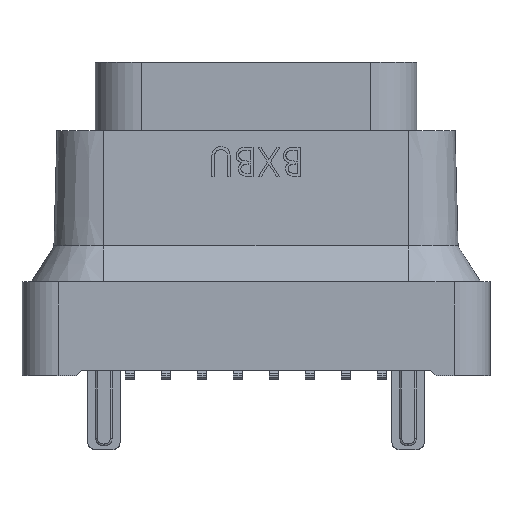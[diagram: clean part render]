
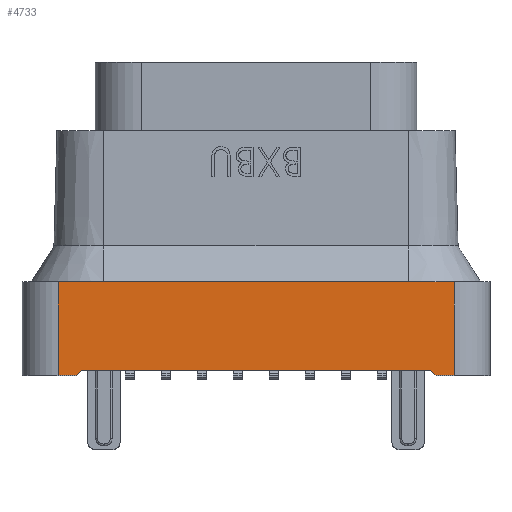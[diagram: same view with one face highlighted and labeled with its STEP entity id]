
A CAD part, top view. The second image highlights one B-rep face of the part: STEP entity #4733.
In plain terms, the highlighted planar face has unit normal (0, 0, 1).
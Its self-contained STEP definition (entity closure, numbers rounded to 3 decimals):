
#59 = EDGE_CURVE ( 'NONE', #18126, #3536, #2848, .T. ) ;
#334 = CARTESIAN_POINT ( 'NONE',  ( 74.5, 2.6, 33.6 ) ) ;
#498 = CARTESIAN_POINT ( 'NONE',  ( 85., 0., 33.6 ) ) ;
#715 = DIRECTION ( 'NONE',  ( 0.707, -0.707, 0. ) ) ;
#1563 = AXIS2_PLACEMENT_3D ( 'NONE', #10076, #9986, #13216 ) ;
#1913 = DIRECTION ( 'NONE',  ( 0., 1., 0. ) ) ;
#2401 = CARTESIAN_POINT ( 'NONE',  ( 75., 0., 33.6 ) ) ;
#2848 = LINE ( 'NONE', #10333, #12097 ) ;
#2923 = CARTESIAN_POINT ( 'NONE',  ( 74.5, 2.6, 33.6 ) ) ;
#2929 = EDGE_CURVE ( 'NONE', #3536, #8183, #17685, .T. ) ;
#3356 = ORIENTED_EDGE ( 'NONE', *, *, #19274, .T. ) ;
#3536 = VERTEX_POINT ( 'NONE', #17416 ) ;
#3943 = EDGE_LOOP ( 'NONE', ( #9506, #11647, #13485, #12527, #12993, #19777, #3356, #11915 ) ) ;
#4479 = LINE ( 'NONE', #334, #4712 ) ;
#4712 = VECTOR ( 'NONE', #15581, 1000. ) ;
#4733 = ADVANCED_FACE ( 'NONE', ( #16321 ), #17835, .T. ) ;
#5100 = VERTEX_POINT ( 'NONE', #17989 ) ;
#5631 = CARTESIAN_POINT ( 'NONE',  ( 75., 0., 33.6 ) ) ;
#7018 = VERTEX_POINT ( 'NONE', #2923 ) ;
#7084 = VERTEX_POINT ( 'NONE', #17659 ) ;
#7115 = VECTOR ( 'NONE', #715, 1000. ) ;
#7118 = VERTEX_POINT ( 'NONE', #2401 ) ;
#8183 = VERTEX_POINT ( 'NONE', #498 ) ;
#8455 = CARTESIAN_POINT ( 'NONE',  ( 74.5, 0., 33.6 ) ) ;
#9045 = CARTESIAN_POINT ( 'NONE',  ( 85.5, 2.6, 33.6 ) ) ;
#9506 = ORIENTED_EDGE ( 'NONE', *, *, #16523, .T. ) ;
#9609 = EDGE_CURVE ( 'NONE', #13759, #5100, #15845, .T. ) ;
#9703 = EDGE_CURVE ( 'NONE', #7118, #18126, #11618, .T. ) ;
#9705 = VECTOR ( 'NONE', #16093, 1000. ) ;
#9941 = CARTESIAN_POINT ( 'NONE',  ( 85.5, 0., 33.6 ) ) ;
#9986 = DIRECTION ( 'NONE',  ( 0., 0., 1. ) ) ;
#10044 = LINE ( 'NONE', #14682, #9705 ) ;
#10076 = CARTESIAN_POINT ( 'NONE',  ( 80., 1.3, 33.6 ) ) ;
#10118 = CARTESIAN_POINT ( 'NONE',  ( 84.85, 0.15, 33.6 ) ) ;
#10333 = CARTESIAN_POINT ( 'NONE',  ( 75.15, 0.15, 33.6 ) ) ;
#10638 = DIRECTION ( 'NONE',  ( 1., 0., 0. ) ) ;
#10750 = EDGE_CURVE ( 'NONE', #7018, #7084, #4479, .T. ) ;
#11618 = LINE ( 'NONE', #5631, #12123 ) ;
#11647 = ORIENTED_EDGE ( 'NONE', *, *, #9703, .T. ) ;
#11915 = ORIENTED_EDGE ( 'NONE', *, *, #10750, .T. ) ;
#12097 = VECTOR ( 'NONE', #10638, 1000. ) ;
#12123 = VECTOR ( 'NONE', #17666, 1000. ) ;
#12527 = ORIENTED_EDGE ( 'NONE', *, *, #2929, .T. ) ;
#12993 = ORIENTED_EDGE ( 'NONE', *, *, #19562, .T. ) ;
#13216 = DIRECTION ( 'NONE',  ( 1., 0., 0. ) ) ;
#13485 = ORIENTED_EDGE ( 'NONE', *, *, #59, .T. ) ;
#13759 = VERTEX_POINT ( 'NONE', #9941 ) ;
#14682 = CARTESIAN_POINT ( 'NONE',  ( 74.5, 0., 33.6 ) ) ;
#14739 = VECTOR ( 'NONE', #1913, 1000. ) ;
#15111 = DIRECTION ( 'NONE',  ( -1., 0., 0. ) ) ;
#15457 = CARTESIAN_POINT ( 'NONE',  ( 85.5, 0., 33.6 ) ) ;
#15581 = DIRECTION ( 'NONE',  ( 0., -1., 0. ) ) ;
#15845 = LINE ( 'NONE', #15457, #14739 ) ;
#16009 = CARTESIAN_POINT ( 'NONE',  ( 75.15, 0.15, 33.6 ) ) ;
#16093 = DIRECTION ( 'NONE',  ( 1., 0., 0. ) ) ;
#16321 = FACE_OUTER_BOUND ( 'NONE', #3943, .T. ) ;
#16523 = EDGE_CURVE ( 'NONE', #7084, #7118, #17843, .T. ) ;
#16840 = VECTOR ( 'NONE', #15111, 1000. ) ;
#17416 = CARTESIAN_POINT ( 'NONE',  ( 84.85, 0.15, 33.6 ) ) ;
#17659 = CARTESIAN_POINT ( 'NONE',  ( 74.5, 0., 33.6 ) ) ;
#17666 = DIRECTION ( 'NONE',  ( 0.707, 0.707, 0. ) ) ;
#17685 = LINE ( 'NONE', #10118, #7115 ) ;
#17835 = PLANE ( 'NONE',  #1563 ) ;
#17843 = LINE ( 'NONE', #8455, #19799 ) ;
#17989 = CARTESIAN_POINT ( 'NONE',  ( 85.5, 2.6, 33.6 ) ) ;
#18126 = VERTEX_POINT ( 'NONE', #16009 ) ;
#18226 = LINE ( 'NONE', #9045, #16840 ) ;
#19267 = DIRECTION ( 'NONE',  ( 1., 0., 0. ) ) ;
#19274 = EDGE_CURVE ( 'NONE', #5100, #7018, #18226, .T. ) ;
#19562 = EDGE_CURVE ( 'NONE', #8183, #13759, #10044, .T. ) ;
#19777 = ORIENTED_EDGE ( 'NONE', *, *, #9609, .T. ) ;
#19799 = VECTOR ( 'NONE', #19267, 1000. ) ;
